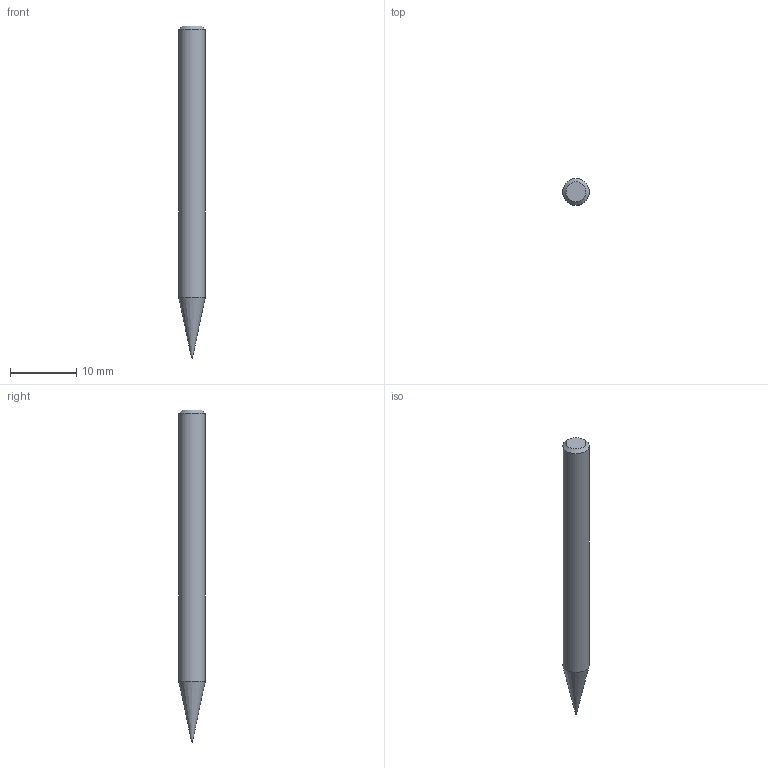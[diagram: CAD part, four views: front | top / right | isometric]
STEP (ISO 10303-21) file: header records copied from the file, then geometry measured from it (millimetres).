
FILE_DESCRIPTION((''),'2;1');
FILE_NAME('C:\Users\nsx150\AppData\Local\Temp\Mastercam 2021\98T1Q6BTT1\TEMP.step','2021-10-21T14:55:14',(''),(''),'STEP Write','Mastercam 2021 ... CNC Software, Inc.','');
FILE_SCHEMA(('AUTOMOTIVE_DESIGN'));
Length unit declared in the file: millimetre
Products named in the file (1): None
Bounding box: 4 x 4 x 50 mm (x, y, z)
Volume: 551.5 mm3; surface area: 582.5 mm2
Topology: 2 solids, 2 shells, 8 faces, 12 edges, 7 vertices
Faces by surface type: plane 3, cylinder 2, cone 2, sphere 1
Full cylindrical faces by diameter (mm): 0.2 x1, 4 x1
Entity records: 190 total; most frequent: DIRECTION 32, CARTESIAN_POINT 22, AXIS2_PLACEMENT_3D 16, ORIENTED_EDGE 12, EDGE_LOOP 12, STYLED_ITEM 11, ADVANCED_FACE 8, VERTEX_POINT 6
